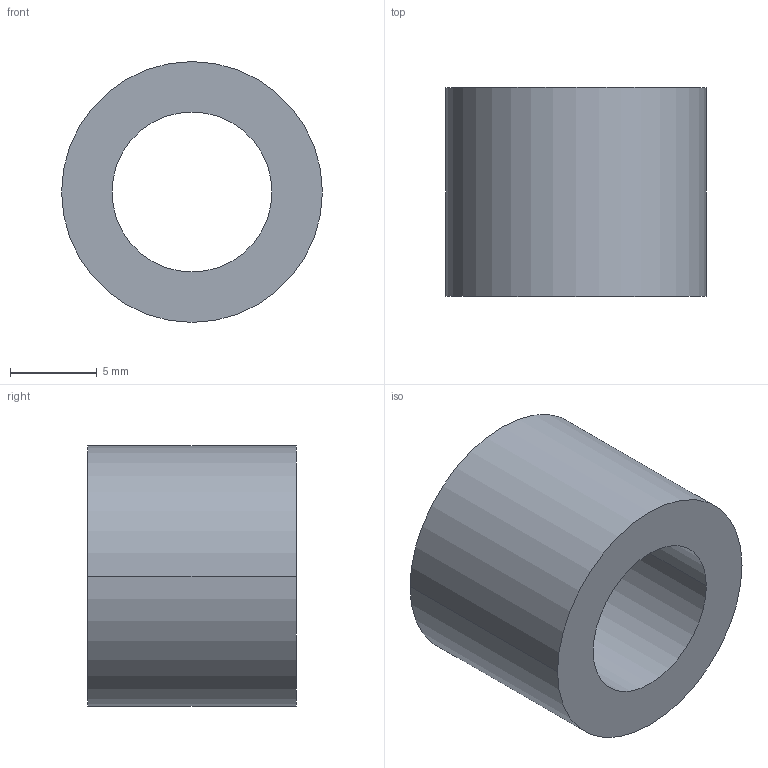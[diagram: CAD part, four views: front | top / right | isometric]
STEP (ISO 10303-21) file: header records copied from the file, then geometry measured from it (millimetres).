
FILE_DESCRIPTION (( 'STEP AP203' ), '1' );
FILE_NAME ('30800.WPP15E9.2.step', '2019-01-23T22:32:18', ( '' ), ( '' ), 'SwSTEP 2.0', 'SolidWorks 2017', '' );
FILE_SCHEMA (( 'CONFIG_CONTROL_DESIGN' ));
Length unit declared in the file: millimetre
Products named in the file (1): 30800.WPP15E9.2
Bounding box: 15 x 12 x 15 mm (x, y, z)
Volume: 1295.6 mm3; surface area: 1109.8 mm2
Topology: 1 solids, 1 shells, 8 faces, 16 edges, 10 vertices
Faces by surface type: cylinder 4, torus 2, plane 2
Entity records: 297 total; most frequent: DIRECTION 46, CARTESIAN_POINT 35, ORIENTED_EDGE 32, AXIS2_PLACEMENT_3D 21, EDGE_CURVE 16, CIRCLE 12, VERTEX_POINT 10, EDGE_LOOP 10
